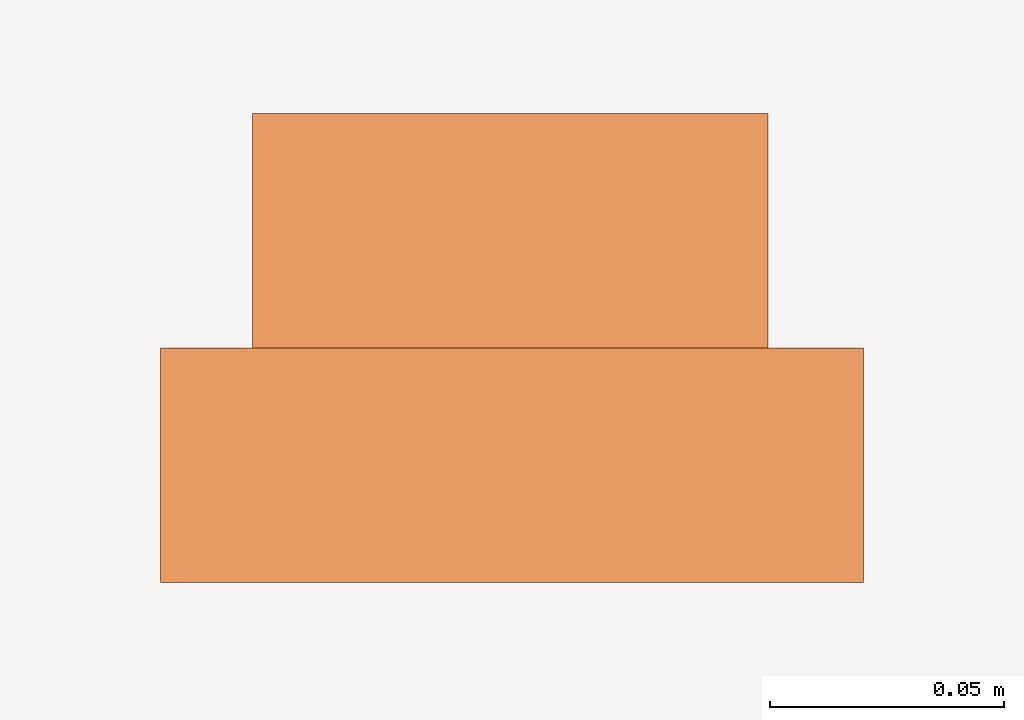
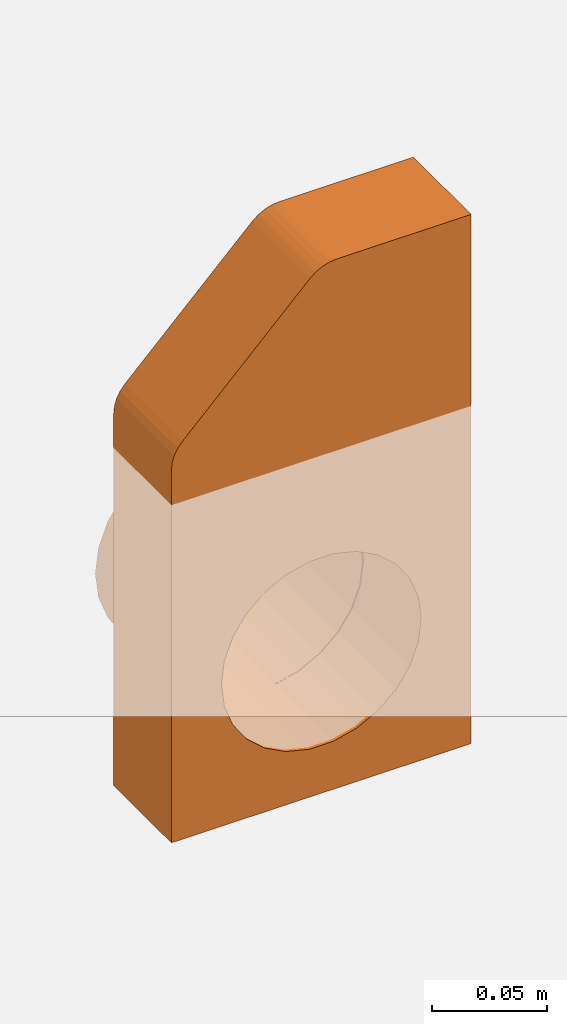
# One storey, part 2 of 2: 1 proxy.
"""IFC2X3 building model written with IfcOpenShell, lengths in millimetres."""

from ifc_helpers import new_model, entity, si_unit, converted_unit, direction, frame, frame_2d, origin, origin_2d_with_axis, place, context, subcontext, project, spatial, polyline, circle_curve, parameter, trimmed, segment, composite_curve, outline, extrude, source, transform, mapped, material, material_list, element, save


model = new_model("IFC2X3")

# Units and contexts
model_context = context("Model", 3, precision=1e-06, world=origin(), true_north=direction((2.0, 6.12303176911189e-17, 1.0)))
context_of_model = context(None, 3, precision=1e-06, world=origin(), true_north=direction((2.0, 6.12303176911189e-17, 1.0)))
body_context = subcontext(model_context, "Body", "Model", "MODEL_VIEW")
ifc_project = project(units=[si_unit("LENGTHUNIT", "METRE", prefix="MILLI"), si_unit("AREAUNIT", "SQUARE_METRE", prefix="MILLI"), si_unit("VOLUMEUNIT", "CUBIC_METRE", prefix="MILLI"), converted_unit("PLANEANGLEUNIT", "DEGREE", entity("IfcRatioMeasure", 0.0174532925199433), si_unit("PLANEANGLEUNIT", "RADIAN"), dimensions=[0, 0, 0, 0, 0, 0, 0]), si_unit("TIMEUNIT", "SECOND")], contexts=[model_context, context_of_model])

# Site, building, storey
site_placement = place(None, origin())
site = spatial("IfcSite", under=ifc_project, at=site_placement, Name="Default", CompositionType="ELEMENT")
building_placement = place(site_placement, origin())
building = spatial("IfcBuilding", under=site, at=building_placement, CompositionType="ELEMENT")
storey_placement = place(building_placement, origin())
storey = spatial("IfcBuildingStorey", under=building, at=storey_placement, Name="Level 1", CompositionType="ELEMENT", Elevation=0.0)

# Proxy
ifc_material_1 = material(Name="Orange")
ifc_material_2 = material(Name="ACO Polymer Concrete.")
ifc_material_list = material_list([ifc_material_1, ifc_material_2])
shared_shape = source(origin(), body_context, "Body", "SweptSolid", [
    extrude(outline(composite_curve([segment(trimmed(circle_curve(origin_2d_with_axis(), 55.0), [parameter(0.0)], [parameter(180.0)], True, "PARAMETER"), True, "CONTINUOUS"), segment(trimmed(circle_curve(origin_2d_with_axis(), 55.0), [parameter(180.0)], [parameter(360.0)], True, "PARAMETER"), True, "CONTINUOUS")], self_intersect=False), holes=[composite_curve([segment(trimmed(circle_curve(origin_2d_with_axis(), 50.0), [parameter(3.05333249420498e-13)], [parameter(180.0)], True, "PARAMETER"), False, "CONTINUOUS"), segment(trimmed(circle_curve(origin_2d_with_axis(), 50.0), [parameter(180.000000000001)], [parameter(5.08888749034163e-14)], True, "PARAMETER"), False, "CONTINUOUS")], self_intersect=False)]), frame((-0.414501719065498, 50.0, -105.00156194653), z_axis=(0.0, 1.0, 0.0), x_axis=(1.0, 0.0, 0.0)), (0.0, 0.0, 1.0), 50.0),
    extrude(outline(composite_curve([segment(trimmed(circle_curve(frame_2d((46.4100082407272, 19.682807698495), x_axis=(1.0, 0.0)), 19.0), [parameter(0.0)], [parameter(44.9999999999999)], True, "PARAMETER"), True, "CONTINUOUS"), segment(polyline([(59.8450370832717, 33.1178365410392), (-4.02502060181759, 96.9878942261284)]), True, "CONTINUOUS"), segment(trimmed(circle_curve(frame_2d((-17.4600494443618, 83.5528653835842), x_axis=(1.0, 0.0)), 19.0), [parameter(44.9999999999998)], [parameter(89.9999999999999)], True, "PARAMETER"), True, "CONTINUOUS"), segment(polyline([(-17.4600494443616, 102.552865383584), (-84.5899917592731, 102.552865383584)]), True, "CONTINUOUS"), segment(polyline([(-84.5899917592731, 102.552865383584), (-84.5899917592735, -177.447134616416)]), True, "CONTINUOUS"), segment(polyline([(-84.5899917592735, -177.447134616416), (65.4100082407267, -177.447134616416)]), True, "CONTINUOUS"), segment(polyline([(65.4100082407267, -177.447134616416), (65.410008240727, 19.682807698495)]), True, "CONTINUOUS")], self_intersect=False), holes=[composite_curve([segment(trimmed(circle_curve(frame_2d((-9.58999175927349, -102.447134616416), x_axis=(1.0, 0.0)), 50.0), [parameter(180.0)], [parameter(360.0)], True, "PARAMETER"), False, "CONTINUOUS"), segment(trimmed(circle_curve(frame_2d((-9.58999175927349, -102.447134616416), x_axis=(1.0, 0.0)), 50.0), [parameter(0.0)], [parameter(180.0)], True, "PARAMETER"), False, "CONTINUOUS")], self_intersect=False)]), frame((-9.58999175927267, 0.0, -2.55286538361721), z_axis=(0.0, 1.0, 0.0), x_axis=(-1.0, 0.0, 0.0)), (0.0, 0.0, 1.0), 50.0),
])
proxy_placement = place(storey_placement, frame((-13460.350578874, -1522.05906174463, 0.0)))
element("IfcBuildingElementProxy", 1, at=proxy_placement, inside=storey, material=ifc_material_list, Name="Civil-Drainage-Channel-ACO-KerbDrain-SP280:7943 - RH inlet/outlet end cap:7943 - RH inlet/outlet end cap", ObjectType="7943 - RH inlet/outlet end cap", CompositionType="ELEMENT", context=body_context, shape_type="MappedRepresentation", body=[
    mapped(shared_shape, transform((0.0, 0.0, 0.0), scale=1.0)),
])

save(model, "model.ifc")
